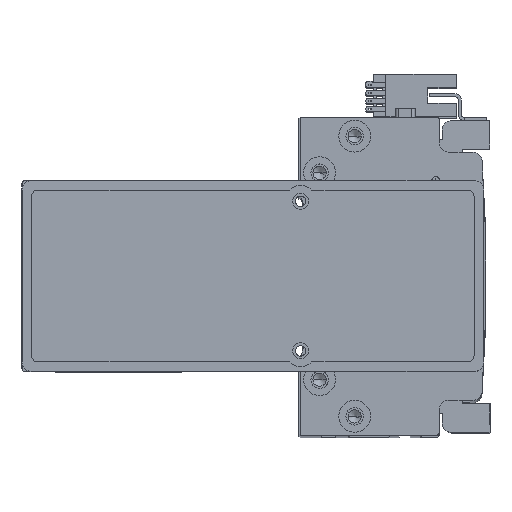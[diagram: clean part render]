
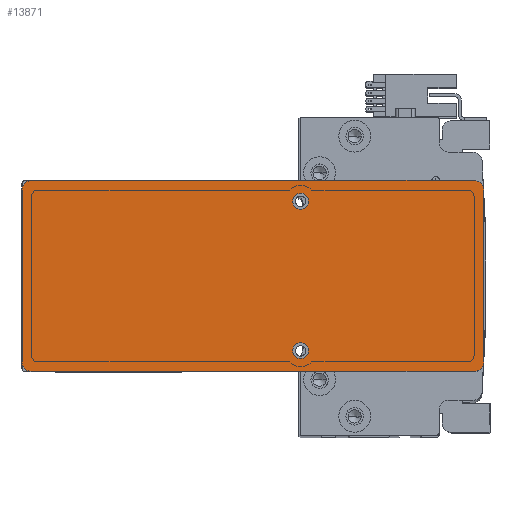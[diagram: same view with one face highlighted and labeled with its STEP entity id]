
A CAD part, top view. The second image highlights one B-rep face of the part: STEP entity #13871.
In plain terms, the highlighted planar face has unit normal (0, 0, 1) as drawn and (0, 0, -1) by its records, which use the part's own axes.
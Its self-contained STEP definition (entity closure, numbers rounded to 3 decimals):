
#973 = CIRCLE ( 'NONE', #1561, 3. ) ;
#1561 = AXIS2_PLACEMENT_3D ( 'NONE', #4684, #27173, #7898 ) ;
#1775 = CARTESIAN_POINT ( 'NONE',  ( -69.5, -30., 0. ) ) ;
#2151 = VERTEX_POINT ( 'NONE', #41164 ) ;
#2455 = CARTESIAN_POINT ( 'NONE',  ( 15., 23.5, 0. ) ) ;
#3158 = VERTEX_POINT ( 'NONE', #35337 ) ;
#3319 = EDGE_LOOP ( 'NONE', ( #40926, #15028, #5797, #30819, #23382, #28683, #38566, #21198 ) ) ;
#3356 = EDGE_CURVE ( 'NONE', #34293, #20580, #32766, .T. ) ;
#3770 = CARTESIAN_POINT ( 'NONE',  ( 17.5, 23.5, 0. ) ) ;
#4076 = CIRCLE ( 'NONE', #8763, 3. ) ;
#4213 = CARTESIAN_POINT ( 'NONE',  ( 0., 0., 0. ) ) ;
#4684 = CARTESIAN_POINT ( 'NONE',  ( -69.5, -27., 0. ) ) ;
#5204 = EDGE_CURVE ( 'NONE', #3158, #2151, #7218, .T. ) ;
#5581 = LINE ( 'NONE', #32398, #13099 ) ;
#5622 = DIRECTION ( 'NONE',  ( 0., 1., 0. ) ) ;
#5688 = DIRECTION ( 'NONE',  ( -1., 0., 0. ) ) ;
#5797 = ORIENTED_EDGE ( 'NONE', *, *, #29079, .F. ) ;
#5913 = EDGE_CURVE ( 'NONE', #15170, #29469, #4076, .T. ) ;
#6348 = ORIENTED_EDGE ( 'NONE', *, *, #5204, .F. ) ;
#6356 = AXIS2_PLACEMENT_3D ( 'NONE', #31603, #12276, #34830 ) ;
#7055 = VERTEX_POINT ( 'NONE', #1775 ) ;
#7218 = CIRCLE ( 'NONE', #25744, 2.5 ) ;
#7453 = DIRECTION ( 'NONE',  ( 1., 0., 0. ) ) ;
#7551 = DIRECTION ( 'NONE',  ( 0., 0., -1. ) ) ;
#7898 = DIRECTION ( 'NONE',  ( 1., 0., 0. ) ) ;
#8197 = LINE ( 'NONE', #40986, #16739 ) ;
#8763 = AXIS2_PLACEMENT_3D ( 'NONE', #13919, #36441, #17157 ) ;
#9325 = CARTESIAN_POINT ( 'NONE',  ( 12.5, 23.5, 0. ) ) ;
#9877 = DIRECTION ( 'NONE',  ( -1., 0., 0. ) ) ;
#10178 = ORIENTED_EDGE ( 'NONE', *, *, #22271, .F. ) ;
#10677 = CARTESIAN_POINT ( 'NONE',  ( -72.5, 27., 0. ) ) ;
#11146 = DIRECTION ( 'NONE',  ( 0., 0., -1. ) ) ;
#11505 = CIRCLE ( 'NONE', #6356, 2.5 ) ;
#12091 = CARTESIAN_POINT ( 'NONE',  ( -69.5, 27., 0. ) ) ;
#12276 = DIRECTION ( 'NONE',  ( 0., 0., -1. ) ) ;
#12299 = VERTEX_POINT ( 'NONE', #10677 ) ;
#12582 = VERTEX_POINT ( 'NONE', #41229 ) ;
#13099 = VECTOR ( 'NONE', #9877, 1000. ) ;
#13263 = ORIENTED_EDGE ( 'NONE', *, *, #41255, .F. ) ;
#13871 = ADVANCED_FACE ( 'NONE', ( #40436, #23294, #15742 ), #29828, .F. ) ;
#13919 = CARTESIAN_POINT ( 'NONE',  ( 69.5, -27., 0. ) ) ;
#15028 = ORIENTED_EDGE ( 'NONE', *, *, #5913, .T. ) ;
#15170 = VERTEX_POINT ( 'NONE', #26599 ) ;
#15217 = DIRECTION ( 'NONE',  ( 0., -1., 0. ) ) ;
#15343 = DIRECTION ( 'NONE',  ( 1., 0., 0. ) ) ;
#15742 = FACE_OUTER_BOUND ( 'NONE', #3319, .T. ) ;
#16739 = VECTOR ( 'NONE', #15217, 1000. ) ;
#17157 = DIRECTION ( 'NONE',  ( 1., 0., 0. ) ) ;
#17161 = CARTESIAN_POINT ( 'NONE',  ( 15., -23.5, 0. ) ) ;
#17202 = VECTOR ( 'NONE', #5622, 1000. ) ;
#20238 = AXIS2_PLACEMENT_3D ( 'NONE', #30466, #11146, #33681 ) ;
#20363 = CARTESIAN_POINT ( 'NONE',  ( 72.5, -30., 0. ) ) ;
#20369 = DIRECTION ( 'NONE',  ( -1., 0., 0. ) ) ;
#20580 = VERTEX_POINT ( 'NONE', #27246 ) ;
#21198 = ORIENTED_EDGE ( 'NONE', *, *, #3356, .T. ) ;
#21277 = EDGE_CURVE ( 'NONE', #12299, #12582, #25250, .T. ) ;
#22271 = EDGE_CURVE ( 'NONE', #2151, #3158, #11505, .T. ) ;
#23294 = FACE_BOUND ( 'NONE', #40175, .T. ) ;
#23382 = ORIENTED_EDGE ( 'NONE', *, *, #38395, .F. ) ;
#24927 = DIRECTION ( 'NONE',  ( 0., 0., -1. ) ) ;
#25250 = CIRCLE ( 'NONE', #32180, 3. ) ;
#25744 = AXIS2_PLACEMENT_3D ( 'NONE', #17161, #39694, #20369 ) ;
#25782 = LINE ( 'NONE', #28117, #17202 ) ;
#26599 = CARTESIAN_POINT ( 'NONE',  ( 72.5, -27., 0. ) ) ;
#26711 = DIRECTION ( 'NONE',  ( 0., 0., 1. ) ) ;
#26802 = EDGE_CURVE ( 'NONE', #15170, #20580, #25782, .T. ) ;
#26804 = CARTESIAN_POINT ( 'NONE',  ( 69.5, 27., 0. ) ) ;
#26806 = CARTESIAN_POINT ( 'NONE',  ( 69.5, 30., 0. ) ) ;
#27173 = DIRECTION ( 'NONE',  ( 0., 0., -1. ) ) ;
#27246 = CARTESIAN_POINT ( 'NONE',  ( 72.5, 27., 0. ) ) ;
#27953 = EDGE_LOOP ( 'NONE', ( #34423, #13263 ) ) ;
#28117 = CARTESIAN_POINT ( 'NONE',  ( 72.5, -30., 0. ) ) ;
#28683 = ORIENTED_EDGE ( 'NONE', *, *, #21277, .T. ) ;
#29079 = EDGE_CURVE ( 'NONE', #7055, #29469, #38481, .T. ) ;
#29469 = VERTEX_POINT ( 'NONE', #38549 ) ;
#29828 = PLANE ( 'NONE',  #34173 ) ;
#30017 = CARTESIAN_POINT ( 'NONE',  ( -72.5, -27., 0. ) ) ;
#30058 = DIRECTION ( 'NONE',  ( 1., 0., 0. ) ) ;
#30094 = CIRCLE ( 'NONE', #34878, 2.5 ) ;
#30466 = CARTESIAN_POINT ( 'NONE',  ( 15., 23.5, 0. ) ) ;
#30819 = ORIENTED_EDGE ( 'NONE', *, *, #31881, .T. ) ;
#31603 = CARTESIAN_POINT ( 'NONE',  ( 15., -23.5, 0. ) ) ;
#31797 = VERTEX_POINT ( 'NONE', #30017 ) ;
#31881 = EDGE_CURVE ( 'NONE', #7055, #31797, #973, .T. ) ;
#32180 = AXIS2_PLACEMENT_3D ( 'NONE', #12091, #34625, #15343 ) ;
#32398 = CARTESIAN_POINT ( 'NONE',  ( 72.5, 30., 0. ) ) ;
#32766 = CIRCLE ( 'NONE', #33965, 3. ) ;
#33122 = VERTEX_POINT ( 'NONE', #9325 ) ;
#33681 = DIRECTION ( 'NONE',  ( -1., 0., 0. ) ) ;
#33965 = AXIS2_PLACEMENT_3D ( 'NONE', #26804, #7551, #30058 ) ;
#34173 = AXIS2_PLACEMENT_3D ( 'NONE', #4213, #26711, #7453 ) ;
#34293 = VERTEX_POINT ( 'NONE', #26806 ) ;
#34377 = EDGE_CURVE ( 'NONE', #33122, #35671, #40247, .T. ) ;
#34423 = ORIENTED_EDGE ( 'NONE', *, *, #34377, .F. ) ;
#34625 = DIRECTION ( 'NONE',  ( 0., 0., -1. ) ) ;
#34830 = DIRECTION ( 'NONE',  ( -1., 0., 0. ) ) ;
#34878 = AXIS2_PLACEMENT_3D ( 'NONE', #2455, #24927, #5688 ) ;
#35337 = CARTESIAN_POINT ( 'NONE',  ( 17.5, -23.5, 0. ) ) ;
#35671 = VERTEX_POINT ( 'NONE', #3770 ) ;
#36441 = DIRECTION ( 'NONE',  ( 0., 0., -1. ) ) ;
#38395 = EDGE_CURVE ( 'NONE', #12299, #31797, #8197, .T. ) ;
#38481 = LINE ( 'NONE', #20363, #39471 ) ;
#38549 = CARTESIAN_POINT ( 'NONE',  ( 69.5, -30., 0. ) ) ;
#38566 = ORIENTED_EDGE ( 'NONE', *, *, #40127, .F. ) ;
#39471 = VECTOR ( 'NONE', #39684, 1000. ) ;
#39684 = DIRECTION ( 'NONE',  ( 1., 0., 0. ) ) ;
#39694 = DIRECTION ( 'NONE',  ( 0., 0., -1. ) ) ;
#40127 = EDGE_CURVE ( 'NONE', #34293, #12582, #5581, .T. ) ;
#40175 = EDGE_LOOP ( 'NONE', ( #10178, #6348 ) ) ;
#40247 = CIRCLE ( 'NONE', #20238, 2.5 ) ;
#40436 = FACE_BOUND ( 'NONE', #27953, .T. ) ;
#40926 = ORIENTED_EDGE ( 'NONE', *, *, #26802, .F. ) ;
#40986 = CARTESIAN_POINT ( 'NONE',  ( -72.5, -30., 0. ) ) ;
#41164 = CARTESIAN_POINT ( 'NONE',  ( 12.5, -23.5, 0. ) ) ;
#41229 = CARTESIAN_POINT ( 'NONE',  ( -69.5, 30., 0. ) ) ;
#41255 = EDGE_CURVE ( 'NONE', #35671, #33122, #30094, .T. ) ;
